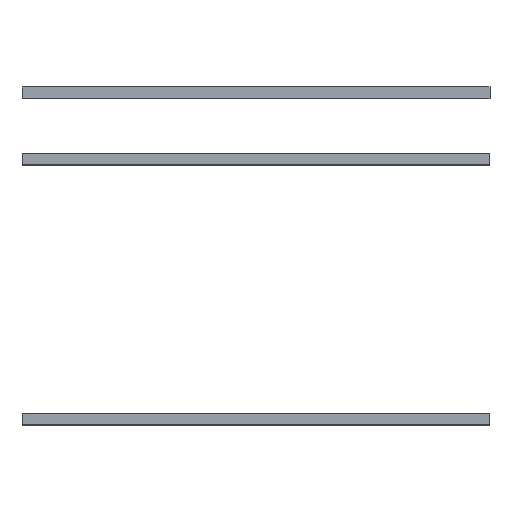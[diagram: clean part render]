
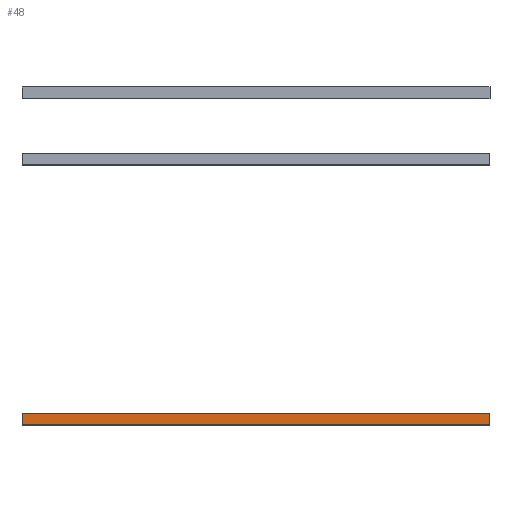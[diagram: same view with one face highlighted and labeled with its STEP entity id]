
A CAD part, top view. The second image highlights one B-rep face of the part: STEP entity #48.
In plain terms, the highlighted planar face has unit normal (0, 0, 1).
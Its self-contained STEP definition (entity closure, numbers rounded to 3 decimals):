
#48=ADVANCED_FACE('',(#66),#522,.T.);
#66=FACE_OUTER_BOUND('',#84,.T.);
#84=EDGE_LOOP('',(#108,#109,#110,#111));
#108=ORIENTED_EDGE('',*,*,#359,.T.);
#109=ORIENTED_EDGE('',*,*,#360,.T.);
#110=ORIENTED_EDGE('',*,*,#361,.T.);
#111=ORIENTED_EDGE('',*,*,#357,.F.);
#178=PCURVE('',#521,#250);
#180=PCURVE('',#522,#252);
#181=PCURVE('',#522,#253);
#182=PCURVE('',#522,#254);
#183=PCURVE('',#522,#255);
#186=PCURVE('',#523,#258);
#190=PCURVE('',#524,#262);
#193=PCURVE('',#525,#265);
#250=DEFINITIONAL_REPRESENTATION('',(#400),#859);
#252=DEFINITIONAL_REPRESENTATION('',(#404),#859);
#253=DEFINITIONAL_REPRESENTATION('',(#406),#859);
#254=DEFINITIONAL_REPRESENTATION('',(#408),#859);
#255=DEFINITIONAL_REPRESENTATION('',(#409),#859);
#258=DEFINITIONAL_REPRESENTATION('',(#412),#859);
#262=DEFINITIONAL_REPRESENTATION('',(#417),#859);
#265=DEFINITIONAL_REPRESENTATION('',(#421),#859);
#321=SURFACE_CURVE('',#399,(#178,#183),.PCURVE_S1.);
#323=SURFACE_CURVE('',#403,(#180,#193),.PCURVE_S1.);
#324=SURFACE_CURVE('',#405,(#181,#190),.PCURVE_S1.);
#325=SURFACE_CURVE('',#407,(#182,#186),.PCURVE_S1.);
#357=EDGE_CURVE('',#497,#501,#321,.T.);
#359=EDGE_CURVE('',#497,#503,#323,.T.);
#360=EDGE_CURVE('',#503,#502,#324,.T.);
#361=EDGE_CURVE('',#502,#501,#325,.T.);
#399=B_SPLINE_CURVE_WITH_KNOTS('',1,(#636,#637),.UNSPECIFIED.,.F.,.F.,(2,
2),(-3280.,-3240.),.UNSPECIFIED.);
#400=B_SPLINE_CURVE_WITH_KNOTS('',1,(#638,#639),.UNSPECIFIED.,.F.,.F.,(2,
2),(-3280.,-3240.),.UNSPECIFIED.);
#403=B_SPLINE_CURVE_WITH_KNOTS('',1,(#644,#645),.UNSPECIFIED.,.F.,.F.,(2,
2),(0.,1600.),.UNSPECIFIED.);
#404=B_SPLINE_CURVE_WITH_KNOTS('',1,(#646,#647),.UNSPECIFIED.,.F.,.F.,(2,
2),(0.,1600.),.UNSPECIFIED.);
#405=B_SPLINE_CURVE_WITH_KNOTS('',1,(#648,#649),.UNSPECIFIED.,.F.,.F.,(2,
2),(1600.,1640.),.UNSPECIFIED.);
#406=B_SPLINE_CURVE_WITH_KNOTS('',1,(#650,#651),.UNSPECIFIED.,.F.,.F.,(2,
2),(1600.,1640.),.UNSPECIFIED.);
#407=B_SPLINE_CURVE_WITH_KNOTS('',1,(#652,#653),.UNSPECIFIED.,.F.,.F.,(2,
2),(1640.,3240.),.UNSPECIFIED.);
#408=B_SPLINE_CURVE_WITH_KNOTS('',1,(#654,#655),.UNSPECIFIED.,.F.,.F.,(2,
2),(1640.,3240.),.UNSPECIFIED.);
#409=B_SPLINE_CURVE_WITH_KNOTS('',1,(#656,#657),.UNSPECIFIED.,.F.,.F.,(2,
2),(-3280.,-3240.),.UNSPECIFIED.);
#412=B_SPLINE_CURVE_WITH_KNOTS('',1,(#662,#663),.UNSPECIFIED.,.F.,.F.,(2,
2),(1640.,3240.),.UNSPECIFIED.);
#417=B_SPLINE_CURVE_WITH_KNOTS('',1,(#672,#673),.UNSPECIFIED.,.F.,.F.,(2,
2),(1600.,1640.),.UNSPECIFIED.);
#421=B_SPLINE_CURVE_WITH_KNOTS('',1,(#680,#681),.UNSPECIFIED.,.F.,.F.,(2,
2),(0.,1600.),.UNSPECIFIED.);
#497=VERTEX_POINT('',#607);
#501=VERTEX_POINT('',#611);
#502=VERTEX_POINT('',#612);
#503=VERTEX_POINT('',#613);
#521=PLANE('',#559);
#522=PLANE('',#560);
#523=PLANE('',#561);
#524=PLANE('',#562);
#525=PLANE('',#563);
#559=AXIS2_PLACEMENT_3D('',#601,#580,$);
#560=AXIS2_PLACEMENT_3D('',#602,#581,$);
#561=AXIS2_PLACEMENT_3D('',#603,#582,$);
#562=AXIS2_PLACEMENT_3D('',#604,#583,$);
#563=AXIS2_PLACEMENT_3D('',#605,#584,$);
#580=DIRECTION('',(-1.,0.,0.));
#581=DIRECTION('',(0.,0.,1.));
#582=DIRECTION('',(0.,1.,0.));
#583=DIRECTION('',(1.,0.,0.));
#584=DIRECTION('',(0.,-1.,0.));
#601=CARTESIAN_POINT('',(-810.,-585.,-180.));
#602=CARTESIAN_POINT('',(-810.,-585.,-160.));
#603=CARTESIAN_POINT('',(-810.,-545.,-180.));
#604=CARTESIAN_POINT('',(810.,-545.,-180.));
#605=CARTESIAN_POINT('',(810.,-585.,-180.));
#607=CARTESIAN_POINT('',(-810.,-585.,-160.));
#611=CARTESIAN_POINT('',(-810.,-545.,-160.));
#612=CARTESIAN_POINT('',(810.,-545.,-160.));
#613=CARTESIAN_POINT('',(810.,-585.,-160.));
#636=CARTESIAN_POINT('',(-810.,-585.,-160.));
#637=CARTESIAN_POINT('',(-810.,-545.,-160.));
#638=CARTESIAN_POINT('',(80.,-3280.));
#639=CARTESIAN_POINT('',(80.,-3240.));
#644=CARTESIAN_POINT('',(-810.,-585.,-160.));
#645=CARTESIAN_POINT('',(810.,-585.,-160.));
#646=CARTESIAN_POINT('',(0.,0.));
#647=CARTESIAN_POINT('',(1600.,0.));
#648=CARTESIAN_POINT('',(810.,-585.,-160.));
#649=CARTESIAN_POINT('',(810.,-545.,-160.));
#650=CARTESIAN_POINT('',(1600.,0.));
#651=CARTESIAN_POINT('',(1600.,40.));
#652=CARTESIAN_POINT('',(810.,-545.,-160.));
#653=CARTESIAN_POINT('',(-810.,-545.,-160.));
#654=CARTESIAN_POINT('',(1600.,40.));
#655=CARTESIAN_POINT('',(0.,40.));
#656=CARTESIAN_POINT('',(0.,0.));
#657=CARTESIAN_POINT('',(0.,40.));
#662=CARTESIAN_POINT('',(80.,-1640.));
#663=CARTESIAN_POINT('',(80.,-3240.));
#672=CARTESIAN_POINT('',(80.,-1600.));
#673=CARTESIAN_POINT('',(80.,-1640.));
#680=CARTESIAN_POINT('',(80.,0.));
#681=CARTESIAN_POINT('',(80.,-1600.));
#859=(
GEOMETRIC_REPRESENTATION_CONTEXT(2)
PARAMETRIC_REPRESENTATION_CONTEXT()
REPRESENTATION_CONTEXT('pspace','')
);
